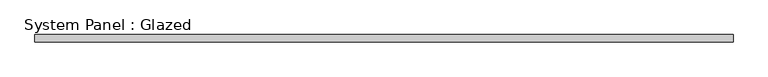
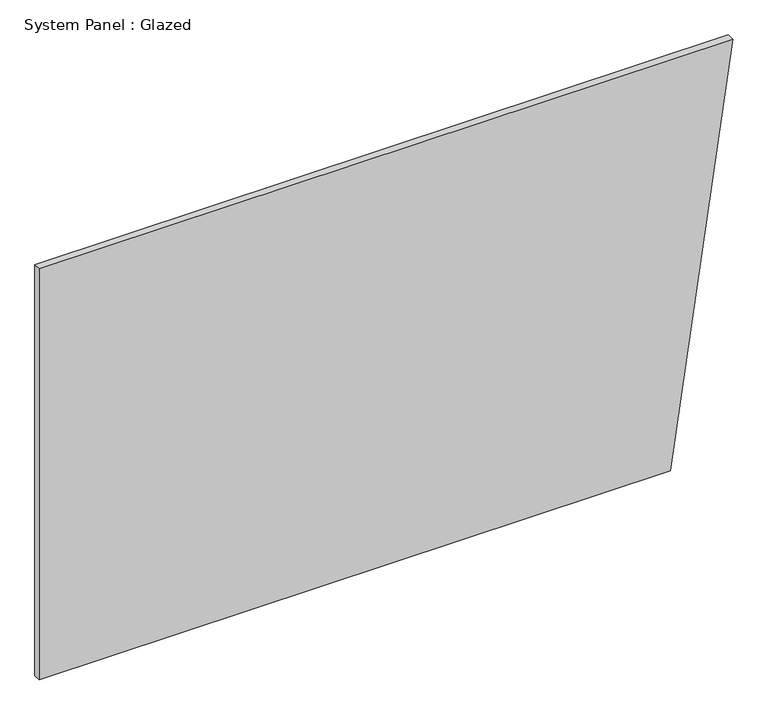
"""IFC4 building model written with IfcOpenShell, lengths in millimetres: plate geometry, System Panel : Glazed."""

import ifcopenshell
import ifcopenshell.guid

model = None  # the IFC model being written
_history = None  # IfcOwnerHistory: only IFC2X3 demands one
_inside = {}  # id of a spatial element -> (the spatial element, [elements in it])
_under = {}  # id of a project, library or spatial element -> (it, [spatial elements below it])
_declared = {}  # id of a project -> (the project, [libraries it declares])
_typed = {}  # id of a type object -> (the type object, [elements of that type])
_made_of = {}  # id of a material, layer set ... -> (it, [elements and type objects made of it])


def new_model(schema):
    """Start an empty IFC model of exactly this schema.

    Asked for "IFC4X3", IfcOpenShell would pick the latest addendum, in which some entities
    have other attributes; the version numbers below select the first issue.
    IFC2X3 requires an IfcOwnerHistory on every rooted entity: one is made here for all.
    """
    global model, _history
    if schema == "IFC4X3":
        model = ifcopenshell.file(schema_version=(4, 3, 0, 0))
    else:
        model = ifcopenshell.file(schema=schema)
    _inside.clear()
    _under.clear()
    _declared.clear()
    _typed.clear()
    _made_of.clear()
    _history = None
    if model.schema == "IFC2X3":
        org = make("IfcOrganization", Name="unknown")
        user = make(
            "IfcPersonAndOrganization",
            ThePerson=make("IfcPerson", FamilyName="unknown"),
            TheOrganization=org,
        )
        app = make(
            "IfcApplication",
            ApplicationDeveloper=org,
            Version="unknown",
            ApplicationFullName="unknown",
            ApplicationIdentifier="unknown",
        )
        _history = make(
            "IfcOwnerHistory",
            OwningUser=user,
            OwningApplication=app,
            ChangeAction="ADDED",
            CreationDate=0,
        )
    return model


def make(cls, **values):
    """One entity of the class cls with the attributes given. An attribute that is None is left unset."""
    return model.create_entity(
        cls, **{name: value for name, value in values.items() if value is not None}
    )


def rooted(cls, **values):
    """An entity with a GlobalId (a new one), such as an element, a storey or a relation."""
    return make(cls, GlobalId=ifcopenshell.guid.new(), OwnerHistory=_history, **values)


def si_unit(unit_type, name, prefix=None):
    """IfcSIUnit, for example si_unit("LENGTHUNIT", "METRE", prefix="MILLI")."""
    return make("IfcSIUnit", UnitType=unit_type, Prefix=prefix, Name=name)


def assignment(units):
    """IfcUnitAssignment: the units of a project."""
    return None if units is None else make("IfcUnitAssignment", Units=units)


def point(xyz):
    """IfcCartesianPoint."""
    return None if xyz is None else make("IfcCartesianPoint", Coordinates=xyz)


def direction(xyz):
    """IfcDirection."""
    return None if xyz is None else make("IfcDirection", DirectionRatios=xyz)


def frame(location, z_axis=None, x_axis=None):
    """IfcAxis2Placement3D, a coordinate frame: its origin and axes. An axis left out is left unset."""
    return make(
        "IfcAxis2Placement3D",
        Location=point(location),
        Axis=direction(z_axis),
        RefDirection=direction(x_axis),
    )


def origin():
    """The frame at (0, 0, 0) with its axes left unset."""
    return frame((0.0, 0.0, 0.0))


def place(relative_to, where):
    """IfcLocalPlacement: puts the frame where relative to a parent placement (None: the world)."""
    return make(
        "IfcLocalPlacement", PlacementRelTo=relative_to, RelativePlacement=where
    )


def context(
    kind, dimensions, precision=None, world=None, true_north=None, identifier=None
):
    """IfcGeometricRepresentationContext, for example the 3D "Model" context."""
    return make(
        "IfcGeometricRepresentationContext",
        ContextIdentifier=identifier,
        ContextType=kind,
        CoordinateSpaceDimension=dimensions,
        Precision=precision,
        WorldCoordinateSystem=world,
        TrueNorth=true_north,
    )


def project(units=None, contexts=None):
    """IfcProject with its units and contexts."""
    return rooted(
        "IfcProject",
        Name="project",
        RepresentationContexts=contexts,
        UnitsInContext=assignment(units),
    )


def spatial(cls, under=None, at=None, **own):
    """A site, building, storey or space (cls), placed at a placement, below another one or the project."""
    s = rooted(cls, ObjectPlacement=at, **own)
    if under is not None:
        _under.setdefault(under.id(), (under, []))[1].append(s)
    return s


def polyline(points):
    """IfcPolyline through the points."""
    return make("IfcPolyline", Points=[point(p) for p in points])


def outline(outer, holes=None, kind="AREA"):
    """IfcArbitraryClosedProfileDef: a profile drawn as a closed curve; with holes, ...WithVoids."""
    if holes is None:
        return make("IfcArbitraryClosedProfileDef", ProfileType=kind, OuterCurve=outer)
    return make(
        "IfcArbitraryProfileDefWithVoids",
        ProfileType=kind,
        OuterCurve=outer,
        InnerCurves=holes,
    )


def extrude(swept, where, along, depth):
    """IfcExtrudedAreaSolid: the profile swept, set in the frame where, extruded along a direction by depth."""
    return make(
        "IfcExtrudedAreaSolid",
        SweptArea=swept,
        Position=where,
        ExtrudedDirection=direction(along),
        Depth=depth,
    )


def shape(context_of_items, identifier, shape_type, items):
    """IfcShapeRepresentation: the items that make up one representation, for example the "Body"."""
    return make(
        "IfcShapeRepresentation",
        ContextOfItems=context_of_items,
        RepresentationIdentifier=identifier,
        RepresentationType=shape_type,
        Items=items,
    )


def source(mapping_origin, context_of_items, identifier, shape_type, items):
    """IfcRepresentationMap: a shape defined once, which mapped items show again and again."""
    return make(
        "IfcRepresentationMap",
        MappingOrigin=mapping_origin,
        MappedRepresentation=shape(context_of_items, identifier, shape_type, items),
    )


def transform(
    local_origin,
    x_axis=None,
    y_axis=None,
    z_axis=None,
    scale=None,
    scale2=None,
    scale3=None,
    uniform=True,
):
    """IfcCartesianTransformationOperator3D, or its non-uniform kind. x_axis, y_axis, z_axis: its Axis1, 2, 3."""
    if uniform:
        return make(
            "IfcCartesianTransformationOperator3D",
            Axis1=direction(x_axis),
            Axis2=direction(y_axis),
            LocalOrigin=point(local_origin),
            Scale=scale,
            Axis3=direction(z_axis),
        )
    return make(
        "IfcCartesianTransformationOperator3DnonUniform",
        Axis1=direction(x_axis),
        Axis2=direction(y_axis),
        LocalOrigin=point(local_origin),
        Scale=scale,
        Axis3=direction(z_axis),
        Scale2=scale2,
        Scale3=scale3,
    )


def mapped(mapping_source, mapping_target):
    """IfcMappedItem: shows the shape of a source again, moved by a transform."""
    return make(
        "IfcMappedItem", MappingSource=mapping_source, MappingTarget=mapping_target
    )


def made_of(thing, what):
    """Note that an element or type object is made of a material, layer set ...; save() writes the relation."""
    if what is not None:
        _made_of.setdefault(what.id(), (what, []))[1].append(thing)
    return thing


def element(
    cls,
    number,
    at=None,
    inside=None,
    cuts=None,
    type_object=None,
    material=None,
    context=None,
    identifier="Body",
    shape_type=None,
    held_by="IfcProductDefinitionShape",
    body=None,
    shapes=None,
    **own,
):
    """One element of the class cls, such as IfcWall. Its Tag is "e" and its number.

    at: its placement. inside: the storey or other place that contains it. cuts: it is an
    opening in that element (IfcRelVoidsElement). A single representation is given by context,
    identifier, shape_type and body (its items); several are given by shapes. held_by: the class
    of the entity that holds the representations. save() writes the other relations.
    """
    e = rooted(cls, Tag="e%d" % number, ObjectPlacement=at, **own)
    if body is not None:
        shapes = [shape(context, identifier, shape_type, body)]
    if shapes is not None:
        e.Representation = make(held_by, Representations=shapes)
    if inside is not None:
        _inside.setdefault(inside.id(), (inside, []))[1].append(e)
    if cuts is not None:
        rooted(
            "IfcRelVoidsElement", RelatingBuildingElement=cuts, RelatedOpeningElement=e
        )
    if type_object is not None:
        _typed.setdefault(type_object.id(), (type_object, []))[1].append(e)
    return made_of(e, material)


def aggregate(whole, parts):
    """IfcRelAggregates: a whole, such as a stair, and the parts it consists of."""
    return rooted("IfcRelAggregates", RelatingObject=whole, RelatedObjects=parts)


def save(model, path):
    """Write the relations noted so far, then the file.

    IfcRelAggregates (storeys below a building ...), IfcRelContainedInSpatialStructure (elements
    in a storey), IfcRelDefinesByType, IfcRelAssociatesMaterial and IfcRelDeclares: one each for
    every whole, place, type object, material and project.
    """
    for whole, parts in _under.values():
        aggregate(whole, parts)
    for where, things in _inside.values():
        rooted(
            "IfcRelContainedInSpatialStructure",
            RelatedElements=things,
            RelatingStructure=where,
        )
    for kind, things in _typed.values():
        rooted("IfcRelDefinesByType", RelatedObjects=things, RelatingType=kind)
    for what, things in _made_of.values():
        rooted("IfcRelAssociatesMaterial", RelatedObjects=things, RelatingMaterial=what)
    for by, libraries in _declared.values():
        rooted("IfcRelDeclares", RelatingContext=by, RelatedDefinitions=libraries)
    model.write(path)


def system_panel_glazed_b40ceba6(model_context):
    return source(origin(), model_context, "Body", "SweptSolid", [
        extrude(outline(polyline([(0.0, -1217.0071941), (0.0, 997.7266186), (1524.0, 1217.0071941), (1524.0, -1217.0071941), (0.0, -1217.0071941)])), frame((0.0, 19.05, 0.0), z_axis=(0.0, 1.0, 0.0), x_axis=(0.0, 0.0, 1.0)), (0.0, 0.0, 1.0), 25.4),
    ])


if __name__ == "__main__":
    model = new_model("IFC4")
    model_context = context("Model", 3, world=origin())
    ifc_project = project(units=[si_unit("LENGTHUNIT", "METRE", prefix="MILLI")], contexts=[model_context])
    site = spatial("IfcSite", under=ifc_project)
    building = spatial("IfcBuilding", under=site)
    placement = place(None, origin())
    system_panel_glazed_shape = system_panel_glazed_b40ceba6(model_context)
    element("IfcPlate", 1, ObjectType="System Panel : Glazed", at=placement, inside=building, context=model_context, shape_type="MappedRepresentation", body=[
        mapped(system_panel_glazed_shape, transform((0.0, 0.0, 0.0), x_axis=(1.0, 0.0, 0.0), y_axis=(0.0, 1.0, 0.0), z_axis=(0.0, 0.0, 1.0))),
    ])
    save(model, "model.ifc")
